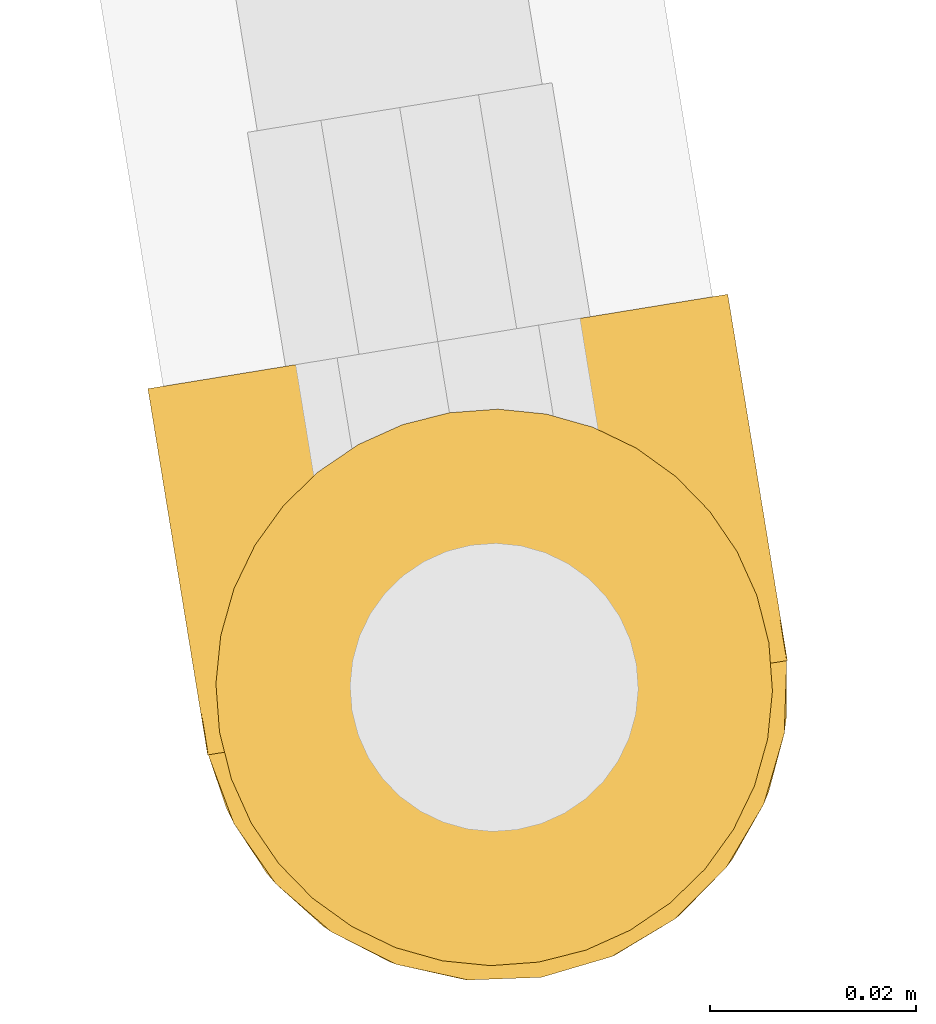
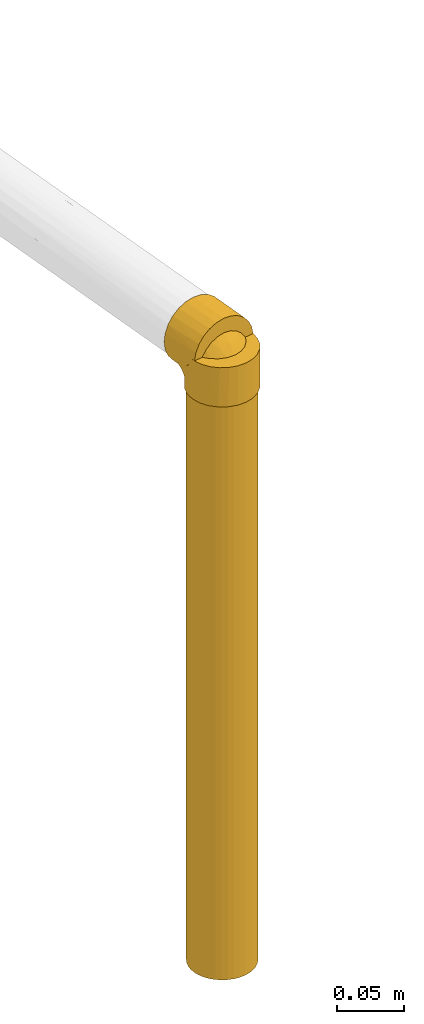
# One storey, part 3 of 56: 2 coverings.
"""IFC2X3 building model written with IfcOpenShell, lengths in millimetres."""

import ifcopenshell
import ifcopenshell.guid

model = None  # the IFC model being written
_history = None  # IfcOwnerHistory: only IFC2X3 demands one
_inside = {}  # id of a spatial element -> (the spatial element, [elements in it])
_under = {}  # id of a project, library or spatial element -> (it, [spatial elements below it])
_declared = {}  # id of a project -> (the project, [libraries it declares])
_typed = {}  # id of a type object -> (the type object, [elements of that type])
_made_of = {}  # id of a material, layer set ... -> (it, [elements and type objects made of it])


def new_model(schema):
    """Start an empty IFC model of exactly this schema.

    Asked for "IFC4X3", IfcOpenShell would pick the latest addendum, in which some entities
    have other attributes; the version numbers below select the first issue.
    IFC2X3 requires an IfcOwnerHistory on every rooted entity: one is made here for all.
    """
    global model, _history
    if schema == "IFC4X3":
        model = ifcopenshell.file(schema_version=(4, 3, 0, 0))
    else:
        model = ifcopenshell.file(schema=schema)
    _inside.clear()
    _under.clear()
    _declared.clear()
    _typed.clear()
    _made_of.clear()
    _history = None
    if model.schema == "IFC2X3":
        org = make("IfcOrganization", Name="unknown")
        user = make(
            "IfcPersonAndOrganization",
            ThePerson=make("IfcPerson", FamilyName="unknown"),
            TheOrganization=org,
        )
        app = make(
            "IfcApplication",
            ApplicationDeveloper=org,
            Version="unknown",
            ApplicationFullName="unknown",
            ApplicationIdentifier="unknown",
        )
        _history = make(
            "IfcOwnerHistory",
            OwningUser=user,
            OwningApplication=app,
            ChangeAction="ADDED",
            CreationDate=0,
        )
    return model


def make(cls, **values):
    """One entity of the class cls with the attributes given. An attribute that is None is left unset."""
    return model.create_entity(
        cls, **{name: value for name, value in values.items() if value is not None}
    )


def entity(cls, *values):
    """Any entity or typed value of the class cls, its attributes in the order of the schema. None: left unset."""
    e = model.create_entity(cls)
    for i, value in enumerate(values):
        if value is not None:
            e[i] = value
    return e


def rooted(cls, **values):
    """An entity with a GlobalId (a new one), such as an element, a storey or a relation."""
    return make(cls, GlobalId=ifcopenshell.guid.new(), OwnerHistory=_history, **values)


def si_unit(unit_type, name, prefix=None):
    """IfcSIUnit, for example si_unit("LENGTHUNIT", "METRE", prefix="MILLI")."""
    return make("IfcSIUnit", UnitType=unit_type, Prefix=prefix, Name=name)


def converted_unit(unit_type, name, factor, base, dimensions=None, offset=None):
    """IfcConversionBasedUnit, such as the inch: factor (a typed value) times the base unit."""
    return make(
        "IfcConversionBasedUnit"
        if offset is None
        else "IfcConversionBasedUnitWithOffset",
        ConversionOffset=offset,
        Dimensions=None
        if dimensions is None
        else entity("IfcDimensionalExponents", *dimensions),
        UnitType=unit_type,
        Name=name,
        ConversionFactor=make(
            "IfcMeasureWithUnit", ValueComponent=factor, UnitComponent=base
        ),
    )


def derived_unit(unit_type, elements):
    """IfcDerivedUnit: a product of units, each with its exponent."""
    return make(
        "IfcDerivedUnit",
        Elements=[
            make("IfcDerivedUnitElement", Unit=unit, Exponent=power)
            for unit, power in elements
        ],
        UnitType=unit_type,
    )


def assignment(units):
    """IfcUnitAssignment: the units of a project."""
    return None if units is None else make("IfcUnitAssignment", Units=units)


def point(xyz):
    """IfcCartesianPoint."""
    return None if xyz is None else make("IfcCartesianPoint", Coordinates=xyz)


def direction(xyz):
    """IfcDirection."""
    return None if xyz is None else make("IfcDirection", DirectionRatios=xyz)


def frame(location, z_axis=None, x_axis=None):
    """IfcAxis2Placement3D, a coordinate frame: its origin and axes. An axis left out is left unset."""
    return make(
        "IfcAxis2Placement3D",
        Location=point(location),
        Axis=direction(z_axis),
        RefDirection=direction(x_axis),
    )


def origin():
    """The frame at (0, 0, 0) with its axes left unset."""
    return frame((0.0, 0.0, 0.0))


def origin_with_axes():
    """The frame at (0, 0, 0) with the z axis (0, 0, 1) and the x axis (1, 0, 0) written out."""
    return frame((0.0, 0.0, 0.0), z_axis=(0.0, 0.0, 1.0), x_axis=(1.0, 0.0, 0.0))


def place(relative_to, where):
    """IfcLocalPlacement: puts the frame where relative to a parent placement (None: the world)."""
    return make(
        "IfcLocalPlacement", PlacementRelTo=relative_to, RelativePlacement=where
    )


def context(
    kind, dimensions, precision=None, world=None, true_north=None, identifier=None
):
    """IfcGeometricRepresentationContext, for example the 3D "Model" context."""
    return make(
        "IfcGeometricRepresentationContext",
        ContextIdentifier=identifier,
        ContextType=kind,
        CoordinateSpaceDimension=dimensions,
        Precision=precision,
        WorldCoordinateSystem=world,
        TrueNorth=true_north,
    )


def subcontext(parent, identifier, kind, view, scale=None):
    """IfcGeometricRepresentationSubContext, for example "Body" below "Model"."""
    return make(
        "IfcGeometricRepresentationSubContext",
        ContextIdentifier=identifier,
        ContextType=kind,
        ParentContext=parent,
        TargetScale=scale,
        TargetView=view,
    )


def project(units=None, contexts=None):
    """IfcProject with its units and contexts."""
    return rooted(
        "IfcProject",
        Name="project",
        RepresentationContexts=contexts,
        UnitsInContext=assignment(units),
    )


def spatial(cls, under=None, at=None, **own):
    """A site, building, storey or space (cls), placed at a placement, below another one or the project."""
    s = rooted(cls, ObjectPlacement=at, **own)
    if under is not None:
        _under.setdefault(under.id(), (under, []))[1].append(s)
    return s


def faces_of(points, faces, orient=None, outer=None):
    """IfcFace entities. A face is a list of loops; a loop is a list of indices into points, from 0.

    orient and outer hold one flag for each loop. By default every Orientation is true, the
    first loop of a face is its IfcFaceOuterBound and the others are IfcFaceBound.
    """
    made = []
    for i, loops in enumerate(faces):
        bounds = []
        for j, loop in enumerate(loops):
            is_outer = j == 0 if outer is None else outer[i][j]
            bounds.append(
                make(
                    "IfcFaceOuterBound" if is_outer else "IfcFaceBound",
                    Bound=make("IfcPolyLoop", Polygon=[points[k] for k in loop]),
                    Orientation=True if orient is None else orient[i][j],
                )
            )
        made.append(make("IfcFace", Bounds=bounds))
    return made


def faceted_brep(points, faces, orient=None, outer=None, voids=None):
    """IfcFacetedBrep: a solid bounded by flat faces; with voids (closed shells), ...WithVoids."""
    shared = [point(p) for p in points]
    hull = make("IfcClosedShell", CfsFaces=faces_of(shared, faces, orient, outer))
    if voids is None:
        return make("IfcFacetedBrep", Outer=hull)
    return make(
        "IfcFacetedBrepWithVoids",
        Outer=hull,
        Voids=[
            make(cls, CfsFaces=faces_of(shared, fs, o, b)) for cls, fs, o, b in voids
        ],
    )


def shape(context_of_items, identifier, shape_type, items):
    """IfcShapeRepresentation: the items that make up one representation, for example the "Body"."""
    return make(
        "IfcShapeRepresentation",
        ContextOfItems=context_of_items,
        RepresentationIdentifier=identifier,
        RepresentationType=shape_type,
        Items=items,
    )


def material(Name=None, Category=None):
    """IfcMaterial."""
    return make("IfcMaterial", Name=Name, Category=Category)


def made_of(thing, what):
    """Note that an element or type object is made of a material, layer set ...; save() writes the relation."""
    if what is not None:
        _made_of.setdefault(what.id(), (what, []))[1].append(thing)
    return thing


def type_object(cls, material=None, **own):
    """A type object (cls), such as IfcWallType, which elements share."""
    return made_of(rooted(cls, **own), material)


def element(
    cls,
    number,
    at=None,
    inside=None,
    cuts=None,
    type_object=None,
    material=None,
    context=None,
    identifier="Body",
    shape_type=None,
    held_by="IfcProductDefinitionShape",
    body=None,
    shapes=None,
    **own,
):
    """One element of the class cls, such as IfcWall. Its Tag is "e" and its number.

    at: its placement. inside: the storey or other place that contains it. cuts: it is an
    opening in that element (IfcRelVoidsElement). A single representation is given by context,
    identifier, shape_type and body (its items); several are given by shapes. held_by: the class
    of the entity that holds the representations. save() writes the other relations.
    """
    e = rooted(cls, Tag="e%d" % number, ObjectPlacement=at, **own)
    if body is not None:
        shapes = [shape(context, identifier, shape_type, body)]
    if shapes is not None:
        e.Representation = make(held_by, Representations=shapes)
    if inside is not None:
        _inside.setdefault(inside.id(), (inside, []))[1].append(e)
    if cuts is not None:
        rooted(
            "IfcRelVoidsElement", RelatingBuildingElement=cuts, RelatedOpeningElement=e
        )
    if type_object is not None:
        _typed.setdefault(type_object.id(), (type_object, []))[1].append(e)
    return made_of(e, material)


def aggregate(whole, parts):
    """IfcRelAggregates: a whole, such as a stair, and the parts it consists of."""
    return rooted("IfcRelAggregates", RelatingObject=whole, RelatedObjects=parts)


def save(model, path):
    """Write the relations noted so far, then the file.

    IfcRelAggregates (storeys below a building ...), IfcRelContainedInSpatialStructure (elements
    in a storey), IfcRelDefinesByType, IfcRelAssociatesMaterial and IfcRelDeclares: one each for
    every whole, place, type object, material and project.
    """
    for whole, parts in _under.values():
        aggregate(whole, parts)
    for where, things in _inside.values():
        rooted(
            "IfcRelContainedInSpatialStructure",
            RelatedElements=things,
            RelatingStructure=where,
        )
    for kind, things in _typed.values():
        rooted("IfcRelDefinesByType", RelatedObjects=things, RelatingType=kind)
    for what, things in _made_of.values():
        rooted("IfcRelAssociatesMaterial", RelatedObjects=things, RelatingMaterial=what)
    for by, libraries in _declared.values():
        rooted("IfcRelDeclares", RelatingContext=by, RelatedDefinitions=libraries)
    model.write(path)


model = new_model("IFC2X3")

# Units and contexts
model_context = context("Model", 3, precision=0.01, world=origin(), true_north=direction((6.12323399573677e-17, 1.0)))
plan_context = context("Plan", 3, precision=1e-05, world=origin_with_axes())
body_context = subcontext(model_context, "Body", "Model", "MODEL_VIEW")
ifc_project = project(units=[converted_unit("PLANEANGLEUNIT", "DEGREE", entity("IfcPositiveLengthMeasure", 0.0174532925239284), si_unit("PLANEANGLEUNIT", "RADIAN"), dimensions=[0, 0, 0, 0, 0, 0, 0]), si_unit("AREAUNIT", "SQUARE_METRE"), si_unit("LENGTHUNIT", "METRE", prefix="MILLI"), si_unit("MASSUNIT", "GRAM", prefix="KILO"), si_unit("POWERUNIT", "WATT"), si_unit("PRESSUREUNIT", "PASCAL", prefix="KILO"), si_unit("FORCEUNIT", "NEWTON", prefix="KILO"), si_unit("ELECTRICVOLTAGEUNIT", "VOLT"), si_unit("ELECTRICCURRENTUNIT", "AMPERE"), si_unit("THERMODYNAMICTEMPERATUREUNIT", "DEGREE_CELSIUS"), si_unit("TIMEUNIT", "SECOND"), si_unit("VOLUMEUNIT", "CUBIC_METRE"), derived_unit("LINEARVELOCITYUNIT", [(si_unit("LENGTHUNIT", "METRE"), 1), (si_unit("TIMEUNIT", "SECOND"), -1)]), derived_unit("VOLUMETRICFLOWRATEUNIT", [(si_unit("VOLUMEUNIT", "CUBIC_METRE"), 1), (si_unit("TIMEUNIT", "SECOND"), -1)]), derived_unit("THERMALTRANSMITTANCEUNIT", [(si_unit("POWERUNIT", "WATT"), 1), (si_unit("THERMODYNAMICTEMPERATUREUNIT", "KELVIN"), -1), (si_unit("AREAUNIT", "SQUARE_METRE"), -1)]), derived_unit("SOUNDPRESSUREUNIT", [(si_unit("PRESSUREUNIT", "PASCAL"), 1)])], contexts=[model_context, plan_context])

# Site, building, storey
site_placement = place(None, frame((-3.09682673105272e-06, 1.93776733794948e-05, 0.0), z_axis=(0.0, 0.0, 1.0), x_axis=(-0.160806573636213, 0.986985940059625, 0.0)))
site = spatial("IfcSite", under=ifc_project, at=site_placement, Name="Default", CompositionType="ELEMENT")
building_placement = place(site_placement, frame((0.0, 0.0, 0.0), z_axis=(0.0, 0.0, 1.0), x_axis=(1.0, -2.77555756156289e-17, 0.0)))
building = spatial("IfcBuilding", under=site, at=building_placement, Name="Bygning (endres i Project Information)", CompositionType="ELEMENT")
storey_placement = place(building_placement, frame((0.0, 0.0, 51360.0000000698), z_axis=(0.0, 0.0, 1.0), x_axis=(1.0, -2.77555756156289e-17, 0.0)))
storey = spatial("IfcBuildingStorey", under=building, at=storey_placement, Name="H01-Nivå D+0,36", CompositionType="ELEMENT", Elevation=51360.0000000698)

# Coverings
ifc_material = material(Name="3103.001 KV")
covering_type = type_object("IfcCoveringType", Name="Pipe Insulation:GLAVA kondensisol. slange økende 13mm (11,0-16,0)", PredefinedType="INSULATION")
covering_1_placement = place(storey_placement, frame((992959.016522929, -384380.253231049, 3666.0), z_axis=(0.0, 0.0, 1.0), x_axis=(1.0, -2.77555756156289e-17, 0.0)))
element("IfcCovering", 1, at=covering_1_placement, inside=storey, type_object=covering_type, material=ifc_material, Name="Pipe Insulation:GLAVA kondensisol. slange økende 13mm (11,0-16,0)", ObjectType="Pipe Insulation:GLAVA kondensisol. slange økende 13mm (11,0-16,0)", PredefinedType="INSULATION", context=body_context, shape_type="Brep", body=[
    faceted_brep([(2.48239922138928, 23.0398315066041, 36.0), (1.59527223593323, 30.0952722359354, 0.0), (2.5663861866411, 22.7189294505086, 0.0), (5.41354822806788, 15.8452722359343, 0.0), (5.08810111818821, 16.4244495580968, 36.0), (30.0952722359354, 1.59527223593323, 22.3496223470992), (29.0949635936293, 1.61283233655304, 32.9996913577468), (28.5822118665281, 1.63986369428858, 32.4869396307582), (28.0952722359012, 1.66553428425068, 32.0), (9.94272897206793, 9.94272897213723, 0.0), (9.25008316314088, 10.6600441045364, 36.0), (1.59527223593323, 30.0952722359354, 36.0), (30.0952722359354, 1.59527223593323, 10.6992446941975), (14.7090533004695, 6.1053938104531, 36.0), (21.125174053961, 3.04370410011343, 36.0), (15.8452722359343, 5.41354822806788, 0.0), (22.7189294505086, 2.56638618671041, 0.0), (30.0952722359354, 1.59527223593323, 0.0), (28.0952722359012, 1.66553428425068, 36.0), (30.0952722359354, 1.59527223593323, 34.0), (29.0949635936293, 1.61283233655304, 35.0003086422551), (30.0952722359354, 1.59527223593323, 36.0), (34.720237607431, 1.97304445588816, 29.3750346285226), (37.4716150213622, 2.56638618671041, 0.0), (58.5952722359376, 30.0952722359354, 0.0), (58.4613161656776, 28.7201614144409, 4.38821999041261), (58.352493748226, 28.2511865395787, 0.0), (42.9828284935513, 4.67557723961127, 13.1982986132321), (40.1320212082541, 3.42105865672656, 17.7452992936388), (44.3452722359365, 5.41354822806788, 0.0), (46.8404891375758, 7.03344856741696, 10.03147217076), (55.4887867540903, 17.5636865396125, 0.0), (56.4865536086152, 19.3365424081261, 5.2357732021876), (55.2290782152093, 16.9349877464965, 5.77915648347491), (52.5124058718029, 12.8940006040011, 0.0), (53.9716028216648, 14.5334330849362, 6.32253976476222), (52.3210767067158, 12.4539784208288, 7.09322573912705), (39.2194160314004, 3.09527223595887, 23.1773980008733), (47.2965438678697, 7.67813860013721, 0.0), (50.2478154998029, 9.94272897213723, 0.0), (50.6705505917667, 10.3745237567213, 7.86391171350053), (39.2360121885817, 3.10088628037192, 23.994979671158), (39.2840922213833, 3.11721472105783, 24.8111800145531), (58.3273600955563, 27.3450505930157, 4.44631296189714), (58.1097152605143, 26.407100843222, 0.0), (57.8669367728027, 24.5630151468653, 0.0), (58.1934040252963, 25.9699397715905, 4.50440593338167), (54.7769962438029, 15.8452722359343, 0.0), (56.9123677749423, 21.0005151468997, 0.0), (57.2730007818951, 21.9656856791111, 4.8991360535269), (57.6241582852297, 22.7189294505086, 0.0), (58.059447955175, 24.5948289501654, 4.56249890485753), (56.2005772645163, 19.2821008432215, 0.0), (58.5952722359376, 30.0952722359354, 4.33012701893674), (31.6083326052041, 58.5506807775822, 35.5130603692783), (31.0955808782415, 58.5777121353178, 35.0003086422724), (31.1049496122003, 58.5773815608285, 36.0), (31.4403477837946, 58.5596446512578, 36.0), (32.0952722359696, 58.5250101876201, 36.0), (30.0952722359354, 58.5952722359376, 34.0), (30.0952722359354, 58.5952722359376, 36.0), (21.9696456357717, 38.7519556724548, 42.1256267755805), (28.0952722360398, 36.5136046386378, 48.2822484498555), (28.0952722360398, 42.3994950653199, 45.5179066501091), (28.0952722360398, 30.0952722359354, 49.2442890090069), (20.9617585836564, 30.0952722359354, 43.1335136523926), (18.5773655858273, 42.3994950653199, 36.0), (28.0952722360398, 47.3407808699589, 41.2829144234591), (22.8123578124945, 47.3407808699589, 36.0), (15.8130237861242, 36.5136046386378, 36.0), (14.8509832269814, 30.0952722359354, 36.0), (28.0952722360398, 51.1427139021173, 36.0), (28.0952722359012, 58.5250101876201, 36.0), (21.125174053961, 57.1468403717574, 36.0), (14.7090533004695, 54.0851506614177, 36.0), (9.25008316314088, 49.5305003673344, 36.0), (5.08810111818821, 43.766094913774, 36.0), (2.48239922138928, 37.1507129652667, 36.0), (28.0952722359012, 9.04783056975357, 36.0), (22.8123578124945, 12.8497636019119, 36.0), (18.5773655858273, 17.7910494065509, 36.0), (15.8130237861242, 23.676939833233, 36.0), (31.1049496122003, 1.61316291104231, 36.0), (31.4403477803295, 1.6308998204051, 36.0), (32.0952722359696, 1.66553428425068, 36.0), (29.0855948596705, 1.61316291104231, 36.0), (28.7501966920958, 1.6308998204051, 36.0), (30.0952722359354, 58.5952722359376, 22.3496213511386), (28.0952722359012, 58.5250101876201, 32.0), (28.5822118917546, 58.550680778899, 32.486939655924), (29.0949635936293, 58.5777121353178, 32.9996913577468), (30.0952722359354, 58.5952722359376, 10.6992427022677), (22.7189294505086, 57.6241582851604, 0.0), (15.8452722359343, 54.7769962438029, 0.0), (30.0952722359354, 58.5952722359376, 0.0), (29.0949635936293, 58.5777121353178, 35.0003086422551), (9.94272897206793, 50.2478154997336, 0.0), (5.41354822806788, 44.3452722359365, 0.0), (2.5663861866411, 37.4716150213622, 0.0), (41.7456505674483, 1.59527223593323, 34.0), (31.6083325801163, 1.63986369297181, 35.5130603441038), (31.0955808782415, 1.61283233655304, 35.0003086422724), (53.396028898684, 1.59527223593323, 34.0), (64.0952722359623, 2.56638618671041, 41.3763427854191), (28.0952722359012, 3.04370410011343, 42.9700981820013), (64.0952722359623, 5.41354822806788, 48.250000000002), (64.0952722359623, 1.59527223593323, 34.0), (28.0952722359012, 1.59527223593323, 34.0), (28.0952722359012, 6.1053938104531, 49.3862189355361), (28.0952722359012, 10.6600441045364, 54.8451890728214), (64.0952722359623, 9.94272897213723, 54.1525432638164), (64.0952722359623, 15.8452722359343, 58.6817240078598), (28.0952722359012, 16.4244495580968, 59.0071711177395), (64.0952722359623, 22.7189294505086, 61.5288860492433), (28.0952722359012, 23.0398315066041, 61.6128730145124), (64.0952722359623, 30.0952722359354, 62.5000000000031), (28.0952722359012, 30.0952722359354, 62.5000000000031), (64.0952722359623, 28.2511865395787, 5.74277848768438), (64.0952722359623, 26.407100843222, 5.98555697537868), (59.6489592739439, 27.3450505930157, 5.76791214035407), (59.1961361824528, 21.9656856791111, 6.82227145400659), (64.0952722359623, 22.7189294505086, 6.4711139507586), (64.0952722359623, 21.0005151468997, 7.18290446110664), (64.0952722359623, 9.94272897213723, 13.8474567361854), (57.002046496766, 12.4539784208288, 11.7741955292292), (64.0952722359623, 12.8940006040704, 11.5828663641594), (64.0952722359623, 17.5636865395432, 8.60648548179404), (64.0952722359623, 15.8452722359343, 9.31827599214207), (58.3161157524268, 16.9349877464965, 8.86619402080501), (59.5327733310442, 24.5948289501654, 6.03582428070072), (64.0952722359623, 24.5630151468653, 6.22833546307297), (59.5908663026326, 25.9699397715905, 5.90186821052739), (56.2313605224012, 10.3745237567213, 13.4247216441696), (58.8594990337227, 19.3365424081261, 7.60871862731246), (64.0952722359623, 19.2821008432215, 7.89469497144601), (57.7727324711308, 14.5334330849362, 10.1236694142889), (64.0952722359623, 7.67813860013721, 16.7987283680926), (64.0952722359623, 5.41354822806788, 19.7499999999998), (54.0638000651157, 7.03344856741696, 17.2547830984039), (50.8969736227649, 4.67557723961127, 21.1124437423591), (64.0952722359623, 2.56638618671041, 26.6236572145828), (40.917874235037, 3.09527223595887, 24.8758562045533), (46.3499729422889, 3.42105865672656, 23.9632510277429), (59.7070522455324, 28.7201614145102, 5.63395607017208), (40.1002925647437, 3.10088628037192, 24.8592600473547), (64.0952722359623, 30.0952722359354, 5.49999999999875), (59.7651452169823, 30.0952722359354, 5.49999999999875), (28.0952722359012, 58.5596446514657, 35.3450755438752), (28.0952722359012, 58.5773815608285, 35.0096773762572), (28.0952722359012, 58.5952722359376, 34.0), (28.0952722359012, 58.5773815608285, 32.9903226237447), (28.0952722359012, 58.5596446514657, 32.6549244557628), (28.0952722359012, 17.7910494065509, 45.5179066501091), (28.0952722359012, 12.8497636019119, 41.2829144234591), (28.0952722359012, 37.1507129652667, 61.6128730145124), (28.0952722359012, 43.766094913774, 59.0071711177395), (28.0952722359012, 49.5305003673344, 54.8451890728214), (28.0952722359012, 54.0851506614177, 49.3862189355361), (28.0952722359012, 57.1468403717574, 42.9700981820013), (28.0952722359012, 23.676939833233, 48.2822484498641), (28.0952722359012, 1.61316291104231, 35.0096773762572), (28.0952722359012, 1.63089982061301, 35.3450755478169), (28.0952722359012, 1.63089982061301, 32.654924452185), (28.0952722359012, 1.61316291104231, 32.9903226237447), (64.0952722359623, 37.4716150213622, 61.5288860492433), (64.0952722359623, 44.3452722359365, 58.6817240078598), (41.745649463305, 58.5952722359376, 34.0), (64.0952722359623, 50.2478154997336, 54.1525432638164), (53.3960250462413, 58.5952722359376, 34.0), (64.0952722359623, 54.7769962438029, 48.250000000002), (64.0952722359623, 57.6241582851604, 41.3763427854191), (64.0952722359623, 58.5952722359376, 34.0), (34.7205670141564, 58.2174458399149, 29.3747052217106), (64.0952722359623, 57.6241582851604, 26.6236572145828), (59.7070522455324, 31.4703830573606, 5.63395607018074), (64.0952722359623, 31.9393579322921, 5.74277848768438), (50.8969736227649, 55.5149672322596, 21.1124437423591), (46.3499729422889, 56.7694858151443, 23.9632510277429), (64.0952722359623, 54.7769962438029, 19.7499999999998), (54.0638000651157, 53.1570959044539, 17.2547830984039), (64.0952722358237, 42.6268579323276, 8.60648548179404), (58.8594990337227, 40.8540020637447, 7.60871862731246), (58.3161157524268, 43.2555567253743, 8.86619402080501), (64.0952722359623, 47.2965438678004, 11.5828663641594), (57.7727324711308, 45.6571113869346, 10.1236694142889), (57.002046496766, 47.7365660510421, 11.7741955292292), (40.917874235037, 57.0952722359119, 24.8758562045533), (64.0952722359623, 52.5124058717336, 16.7987283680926), (64.0952722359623, 50.2478154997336, 13.8474567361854), (56.2313605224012, 49.8160207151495, 13.4247216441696), (40.1002925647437, 57.0896581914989, 24.8592600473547), (39.2840922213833, 57.073329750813, 24.8111800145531), (59.6489592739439, 32.8454938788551, 5.76791214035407), (64.0952722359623, 33.7834436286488, 5.98555697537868), (64.0952722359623, 35.6275293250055, 6.22833546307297), (59.590866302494, 34.2206047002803, 5.90186821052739), (64.0952722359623, 44.3452722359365, 9.31827599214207), (64.0952722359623, 39.1900293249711, 7.18290446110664), (59.1961361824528, 38.2248587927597, 6.82227145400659), (64.0952722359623, 37.4716150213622, 6.4711139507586), (59.5327733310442, 35.5957155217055, 6.03582428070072), (64.0952722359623, 40.9084436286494, 7.89469497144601), (21.9696455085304, 21.4385887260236, 42.1256266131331), (28.5822118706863, 58.5506807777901, 35.5130603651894), (28.5822118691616, 1.63986369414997, 35.5130603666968), (29.0855948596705, 58.5773815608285, 36.0), (28.7501966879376, 58.5596446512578, 36.0), (37.4716150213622, 57.6241582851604, 0.0), (44.3452722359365, 54.7769962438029, 0.0), (47.2965438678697, 52.5124058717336, 0.0), (50.2478154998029, 50.2478154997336, 0.0), (52.5124058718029, 47.2965438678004, 0.0), (54.7769962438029, 44.3452722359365, 0.0), (55.4887867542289, 42.6268579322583, 0.0), (56.2005772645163, 40.9084436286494, 0.0), (56.9123677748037, 39.1900293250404, 0.0), (57.6241582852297, 37.4716150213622, 0.0), (57.8669367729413, 35.6275293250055, 0.0), (58.1097152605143, 33.7834436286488, 0.0), (58.352493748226, 31.9393579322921, 0.0), (58.3273600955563, 32.8454938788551, 4.44631296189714), (57.2730007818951, 38.2248587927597, 4.8991360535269), (52.3210767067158, 47.7365660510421, 7.09322573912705), (55.2290782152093, 43.2555567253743, 5.77915648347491), (58.059447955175, 35.5957155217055, 4.56249890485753), (58.1934040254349, 34.2206047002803, 4.504405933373), (50.6705505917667, 49.8160207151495, 7.86391171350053), (56.4865536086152, 40.8540020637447, 5.2357732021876), (53.9716028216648, 45.6571113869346, 6.32253976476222), (46.8404891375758, 53.1570959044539, 10.03147217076), (42.9828284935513, 55.5149672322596, 13.1982986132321), (39.2194160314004, 57.0952722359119, 23.1773980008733), (40.1320212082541, 56.7694858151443, 17.7452992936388), (58.4613161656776, 31.4703830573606, 4.38821999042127), (39.2360121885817, 57.0896581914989, 23.994979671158), (51.5284919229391, 52.7326975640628, 14.6275978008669), (53.2999186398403, 49.5393535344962, 10.795353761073), (49.2575869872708, 52.7326979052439, 12.3180234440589), (43.2876808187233, 56.5938420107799, 19.9417467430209), (47.2423362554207, 55.1081758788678, 16.8529365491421), (44.2766274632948, 55.7004497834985, 15.9409551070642), (56.2066650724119, 44.4883146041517, 7.88860711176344), (47.9474599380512, 55.7891962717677, 19.9986987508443), (59.1455247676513, 30.0952722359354, 4.94974746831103), (40.0536416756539, 57.0952722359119, 24.0416305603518), (40.0536416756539, 3.09527223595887, 24.0416305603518), (50.0600739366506, 5.45621728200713, 18.1686888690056), (51.2894027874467, 7.50854977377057, 14.3146537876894), (53.2999186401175, 10.6511909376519, 10.795353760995), (44.2180117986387, 3.61465759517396, 20.7433074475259), (44.1199273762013, 4.40602312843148, 16.1536984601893), (47.3637253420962, 5.15283135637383, 16.7315471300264), (56.2066650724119, 15.7022298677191, 7.88860711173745), (48.6657786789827, 7.07121179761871, 12.5628067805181)], [[[0, 1, 2]], [[2, 3, 4]], [[5, 6, 7, 8]], [[9, 10, 3]], [[11, 1, 0]], [[10, 4, 3]], [[2, 4, 0]], [[12, 5, 8]], [[9, 13, 10]], [[14, 15, 16]], [[12, 8, 16]], [[12, 16, 17]], [[14, 16, 8]], [[13, 15, 14]], [[18, 14, 8]], [[19, 6, 5]], [[20, 19, 21]], [[15, 13, 9]], [[22, 17, 23]], [[24, 25, 26]], [[23, 27, 28]], [[27, 23, 29]], [[27, 29, 30]], [[31, 32, 33]], [[34, 35, 36]], [[37, 23, 28]], [[22, 19, 5, 12, 17]], [[30, 29, 38]], [[39, 36, 40]], [[41, 42, 22]], [[37, 41, 22]], [[23, 37, 22]], [[43, 44, 26]], [[45, 44, 46]], [[35, 34, 47]], [[32, 48, 49]], [[25, 43, 26]], [[50, 49, 48]], [[44, 43, 46]], [[51, 45, 46]], [[32, 31, 52, 48]], [[30, 38, 40]], [[33, 47, 31]], [[33, 35, 47]], [[51, 50, 45]], [[34, 36, 39]], [[25, 24, 53]], [[50, 51, 49]], [[40, 38, 39]], [[54, 55, 56, 57, 58]], [[55, 59, 60]], [[55, 60, 56]], [[61, 62, 63]], [[64, 62, 65]], [[65, 62, 61]], [[66, 61, 63]], [[63, 67, 68, 66]], [[69, 70, 65]], [[66, 69, 61]], [[68, 67, 71]], [[65, 61, 69]], [[66, 68, 71, 72, 73, 74, 75, 76, 77, 11, 0, 4, 10, 13, 14, 18, 78, 79, 80, 81, 70, 69]], [[21, 82, 83, 84, 85]], [[72, 58, 57, 56, 60]], [[84, 18, 86, 85]], [[87, 88, 89, 90]], [[91, 92, 88]], [[88, 92, 73]], [[73, 92, 93]], [[94, 92, 91]], [[90, 59, 87]], [[60, 59, 95]], [[87, 91, 88]], [[88, 73, 72]], [[93, 74, 73]], [[75, 96, 97]], [[76, 97, 98]], [[77, 98, 1]], [[74, 96, 75]], [[76, 75, 97]], [[98, 77, 76]], [[1, 11, 77]], [[96, 74, 93]], [[99, 84, 100, 101]], [[102, 103, 84]], [[84, 103, 104]], [[104, 103, 105]], [[106, 103, 102]], [[101, 19, 99]], [[107, 19, 20]], [[99, 102, 84]], [[84, 104, 18]], [[105, 108, 104]], [[109, 110, 111]], [[112, 111, 113]], [[114, 113, 115]], [[108, 110, 109]], [[112, 109, 111]], [[113, 114, 112]], [[115, 116, 114]], [[110, 108, 105]], [[117, 118, 119]], [[120, 121, 122]], [[123, 124, 125]], [[126, 127, 128]], [[129, 130, 121]], [[130, 131, 118]], [[123, 132, 124]], [[118, 131, 119]], [[120, 129, 121]], [[133, 122, 134, 126]], [[135, 125, 124]], [[132, 123, 136]], [[131, 130, 129]], [[133, 126, 128]], [[136, 137, 138]], [[127, 135, 128]], [[137, 139, 138]], [[139, 137, 140]], [[141, 142, 140]], [[140, 142, 139]], [[22, 140, 106]], [[117, 119, 143]], [[135, 127, 125]], [[42, 144, 22]], [[122, 133, 120]], [[140, 22, 141]], [[22, 106, 102, 99, 19]], [[141, 22, 144]], [[143, 145, 117]], [[145, 143, 146]], [[132, 136, 138]], [[72, 147, 148, 149, 150, 151, 88]], [[152, 153, 78, 18, 104, 108, 109, 112, 114, 116, 154, 155, 156, 157, 158, 72, 71, 67, 63, 62, 64, 159]], [[107, 160, 161, 18, 8, 162, 163]], [[154, 115, 164]], [[164, 165, 155]], [[166, 55, 54, 58]], [[167, 156, 165]], [[116, 115, 154]], [[156, 155, 165]], [[164, 155, 154]], [[168, 166, 58]], [[167, 157, 156]], [[158, 169, 170]], [[168, 58, 170]], [[168, 170, 171]], [[158, 170, 58]], [[157, 169, 158]], [[72, 158, 58]], [[59, 55, 166]], [[95, 59, 149]], [[169, 157, 167]], [[172, 171, 173]], [[145, 174, 175]], [[173, 176, 177]], [[176, 173, 178]], [[176, 178, 179]], [[180, 181, 182]], [[183, 184, 185]], [[186, 173, 177]], [[172, 59, 166, 168, 171]], [[179, 178, 187]], [[188, 185, 189]], [[190, 191, 172]], [[186, 190, 172]], [[173, 186, 172]], [[192, 193, 175]], [[194, 193, 195]], [[184, 183, 196]], [[181, 197, 198]], [[174, 192, 175]], [[199, 198, 197]], [[193, 192, 195]], [[200, 194, 195]], [[181, 180, 201, 197]], [[179, 187, 189]], [[182, 196, 180]], [[182, 184, 196]], [[200, 199, 194]], [[183, 185, 188]], [[174, 145, 146]], [[199, 200, 198]], [[189, 187, 188]], [[152, 202, 80]], [[159, 202, 152]], [[152, 80, 79, 153]], [[78, 153, 79]], [[64, 65, 159]], [[65, 202, 159]], [[65, 70, 81]], [[202, 81, 80]], [[65, 81, 202]], [[170, 169, 167, 165, 164, 115, 113, 111, 110, 105, 103, 106, 140, 137, 136, 123, 125, 127, 126, 134, 122, 121, 130, 118, 117, 145, 175, 193, 194, 199, 197, 201, 180, 196, 183, 188, 187, 178, 173, 171]], [[203, 95, 148, 147, 72]], [[95, 149, 148]], [[149, 59, 90]], [[89, 88, 151, 150, 90]], [[90, 150, 149]], [[7, 6, 163, 162, 8]], [[6, 19, 107]], [[6, 107, 163]], [[204, 18, 161, 160, 20]], [[20, 160, 107]], [[60, 205, 206]], [[16, 15, 9, 3, 2, 1, 98, 97, 96, 93, 92, 94, 207, 208, 209, 210, 211, 212, 213, 214, 215, 216, 217, 218, 219, 24, 26, 44, 45, 50, 48, 52, 31, 47, 34, 39, 38, 29, 23, 17]], [[204, 20, 85, 86, 18]], [[20, 21, 85]], [[21, 19, 101]], [[100, 84, 83, 82, 101]], [[101, 82, 21]], [[219, 218, 220]], [[221, 216, 215]], [[210, 222, 211]], [[213, 212, 223]], [[224, 217, 216]], [[217, 225, 218]], [[210, 226, 222]], [[218, 225, 220]], [[221, 224, 216]], [[227, 215, 214, 213]], [[228, 211, 222]], [[226, 210, 209]], [[225, 217, 224]], [[227, 213, 223]], [[209, 208, 229]], [[212, 228, 223]], [[208, 230, 229]], [[230, 208, 207]], [[231, 232, 207]], [[207, 232, 230]], [[172, 207, 94]], [[219, 220, 233]], [[228, 212, 211]], [[191, 234, 172]], [[215, 227, 221]], [[207, 172, 231]], [[172, 94, 91, 87, 59]], [[231, 172, 234]], [[233, 24, 219]], [[24, 233, 53]], [[226, 209, 229]], [[203, 72, 206, 205, 95]], [[95, 205, 60]], [[235, 236, 237]], [[226, 229, 237]], [[189, 236, 235]], [[238, 239, 240]], [[224, 221, 227, 181, 198, 200]], [[241, 181, 227]], [[232, 240, 230]], [[184, 241, 236]], [[176, 242, 177]], [[242, 238, 186]], [[186, 177, 242]], [[236, 241, 228]], [[238, 242, 239]], [[238, 240, 232]], [[179, 242, 176]], [[243, 200, 195, 192, 174, 146]], [[243, 53, 233, 220, 225, 224]], [[235, 242, 179]], [[186, 238, 244]], [[236, 189, 185, 184]], [[236, 228, 222, 226]], [[241, 227, 223, 228]], [[229, 230, 240]], [[240, 237, 229]], [[232, 231, 238]], [[231, 244, 238]], [[242, 235, 239]], [[226, 237, 236]], [[240, 239, 237]], [[235, 237, 239]], [[189, 235, 179]], [[200, 243, 224]], [[241, 184, 182, 181]], [[190, 234, 191]], [[244, 190, 186]], [[244, 231, 234]], [[244, 234, 190]], [[141, 144, 245]], [[245, 144, 41]], [[41, 37, 245]], [[41, 144, 42]], [[246, 139, 142]], [[246, 138, 139]], [[132, 138, 247]], [[248, 135, 124, 132]], [[249, 141, 245]], [[30, 250, 27]], [[249, 251, 246]], [[252, 133, 128, 135]], [[243, 146, 143, 119, 131, 129]], [[51, 243, 129]], [[253, 247, 251]], [[142, 249, 246]], [[51, 129, 120, 133, 32, 49]], [[138, 246, 247]], [[245, 37, 249]], [[247, 246, 251]], [[249, 37, 250]], [[248, 247, 253]], [[133, 252, 32]], [[40, 253, 30]], [[28, 27, 250]], [[248, 252, 135]], [[253, 40, 248]], [[250, 30, 253]], [[243, 51, 46, 43, 25, 53]], [[248, 40, 36, 35]], [[252, 35, 33, 32]], [[248, 35, 252]], [[142, 141, 249]], [[249, 250, 251]], [[250, 253, 251]], [[28, 250, 37]], [[132, 247, 248]], [[60, 206, 72]]]),
])
covering_2_placement = place(storey_placement, frame((0.0, 0.0, 0.0), z_axis=(0.0, 0.0, 1.0), x_axis=(1.0, -2.77555756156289e-17, 0.0)))
element("IfcCovering", 2, at=covering_2_placement, inside=storey, type_object=covering_type, Name="Pipe Insulation:GLAVA kondensisol. slange økende 13mm (11,0-16,0)", ObjectType="Pipe Insulation:GLAVA kondensisol. slange økende 13mm (11,0-16,0)", PredefinedType="INSULATION", context=body_context, shape_type="Brep", body=[
    faceted_brep([(992989.111795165, -384377.157958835, 3139.99999993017), (992984.423294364, -384376.747768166, 3139.99999993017), (992984.423294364, -384376.747768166, 3666.00000000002), (992989.111795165, -384377.157958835, 3666.00000000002), (992993.800295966, -384376.747768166, 3139.99999993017), (992993.800295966, -384376.747768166, 3666.00000000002), (992998.346339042, -384375.529659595, 3139.99999993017), (992998.346339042, -384375.529659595, 3666.00000000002), (993002.611795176, -384373.540644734, 3139.99999993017), (993002.611795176, -384373.540644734, 3666.00000000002), (993006.46706064, -384370.841158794, 3139.99999993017), (993006.46706064, -384370.841158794, 3666.00000000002), (993009.794995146, -384367.513224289, 3139.99999993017), (993009.794995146, -384367.513224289, 3666.00000000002), (993012.494481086, -384363.657958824, 3139.99999993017), (993012.494481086, -384363.657958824, 3666.00000000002), (993014.483495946, -384359.39250269, 3139.99999993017), (993014.483495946, -384359.39250269, 3666.00000000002), (993015.701604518, -384354.846459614, 3139.99999993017), (993015.701604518, -384354.846459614, 3666.00000000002), (993016.111795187, -384350.157958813, 3139.99999993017), (993016.111795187, -384350.157958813, 3666.00000000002), (993015.701604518, -384345.469458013, 3139.99999993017), (993015.701604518, -384345.469458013, 3666.00000000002), (993014.483495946, -384340.923414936, 3139.99999993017), (993014.483495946, -384340.923414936, 3666.00000000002), (993012.494481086, -384336.657958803, 3139.99999993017), (993012.494481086, -384336.657958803, 3666.00000000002), (993009.794995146, -384332.802693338, 3139.99999993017), (993009.794995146, -384332.802693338, 3666.00000000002), (993006.46706064, -384329.474758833, 3139.99999993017), (993006.46706064, -384329.474758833, 3666.00000000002), (993002.611795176, -384326.775272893, 3139.99999993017), (993002.611795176, -384326.775272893, 3666.00000000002), (992998.346339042, -384324.786258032, 3139.99999993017), (992998.346339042, -384324.786258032, 3666.00000000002), (992993.800295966, -384323.568149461, 3139.99999993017), (992993.800295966, -384323.568149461, 3666.00000000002), (992989.111795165, -384323.157958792, 3139.99999993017), (992989.111795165, -384323.157958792, 3666.00000000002), (992984.423294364, -384323.568149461, 3139.99999993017), (992984.423294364, -384323.568149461, 3666.00000000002), (992979.877251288, -384324.786258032, 3139.99999993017), (992979.877251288, -384324.786258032, 3666.00000000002), (992975.611795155, -384326.775272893, 3139.99999993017), (992975.611795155, -384326.775272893, 3666.00000000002), (992971.75652969, -384329.474758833, 3139.99999993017), (992971.75652969, -384329.474758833, 3666.00000000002), (992968.428595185, -384332.802693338, 3139.99999993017), (992968.428595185, -384332.802693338, 3666.00000000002), (992965.729109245, -384336.657958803, 3139.99999993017), (992965.729109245, -384336.657958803, 3666.00000000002), (992963.740094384, -384340.923414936, 3139.99999993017), (992963.740094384, -384340.923414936, 3666.00000000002), (992962.521985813, -384345.469458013, 3139.99999993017), (992962.521985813, -384345.469458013, 3666.00000000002), (992962.111795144, -384350.157958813, 3139.99999993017), (992962.111795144, -384350.157958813, 3666.00000000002), (992962.521985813, -384354.846459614, 3139.99999993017), (992962.521985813, -384354.846459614, 3666.00000000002), (992963.740094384, -384359.39250269, 3139.99999993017), (992963.740094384, -384359.39250269, 3666.00000000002), (992965.729109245, -384363.657958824, 3139.99999993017), (992965.729109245, -384363.657958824, 3666.00000000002), (992968.428595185, -384367.513224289, 3139.99999993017), (992968.428595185, -384367.513224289, 3666.00000000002), (992971.75652969, -384370.841158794, 3139.99999993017), (992971.75652969, -384370.841158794, 3666.00000000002), (992975.611795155, -384373.540644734, 3139.99999993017), (992975.611795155, -384373.540644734, 3666.00000000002), (992979.877251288, -384375.529659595, 3139.99999993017), (992979.877251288, -384375.529659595, 3666.00000000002)], [[[0, 1, 2, 3]], [[4, 0, 3, 5]], [[6, 4, 5, 7]], [[8, 6, 7, 9]], [[10, 8, 9, 11]], [[12, 10, 11, 13]], [[14, 12, 13, 15]], [[16, 14, 15, 17]], [[18, 16, 17, 19]], [[20, 18, 19, 21]], [[22, 20, 21, 23]], [[24, 22, 23, 25]], [[26, 24, 25, 27]], [[28, 26, 27, 29]], [[30, 28, 29, 31]], [[32, 30, 31, 33]], [[34, 32, 33, 35]], [[36, 34, 35, 37]], [[38, 36, 37, 39]], [[40, 38, 39, 41]], [[42, 40, 41, 43]], [[44, 42, 43, 45]], [[46, 44, 45, 47]], [[48, 46, 47, 49]], [[50, 48, 49, 51]], [[52, 50, 51, 53]], [[54, 52, 53, 55]], [[56, 54, 55, 57]], [[58, 56, 57, 59]], [[60, 58, 59, 61]], [[62, 60, 61, 63]], [[64, 62, 63, 65]], [[66, 64, 65, 67]], [[68, 66, 67, 69]], [[70, 68, 69, 71]], [[1, 70, 71, 2]], [[3, 2, 71, 69, 67, 65, 63, 61, 59, 57, 55, 53, 51, 49, 47, 45, 43, 41, 39, 37, 35, 33, 31, 29, 27, 25, 23, 21, 19, 17, 15, 13, 11, 9, 7, 5]], [[4, 6, 8, 10, 12, 14, 16, 18, 20, 22, 24, 26, 28, 30, 32, 34, 36, 38, 40, 42, 44, 46, 48, 50, 52, 54, 56, 58, 60, 62, 64, 66, 68, 70, 1, 0]]], orient=[[False], [False], [False], [False], [False], [False], [False], [False], [False], [False], [False], [False], [False], [False], [False], [False], [False], [False], [False], [False], [False], [False], [False], [False], [False], [False], [False], [False], [False], [False], [False], [False], [False], [False], [False], [False], [False], [False]]),
])

save(model, "model.ifc")
